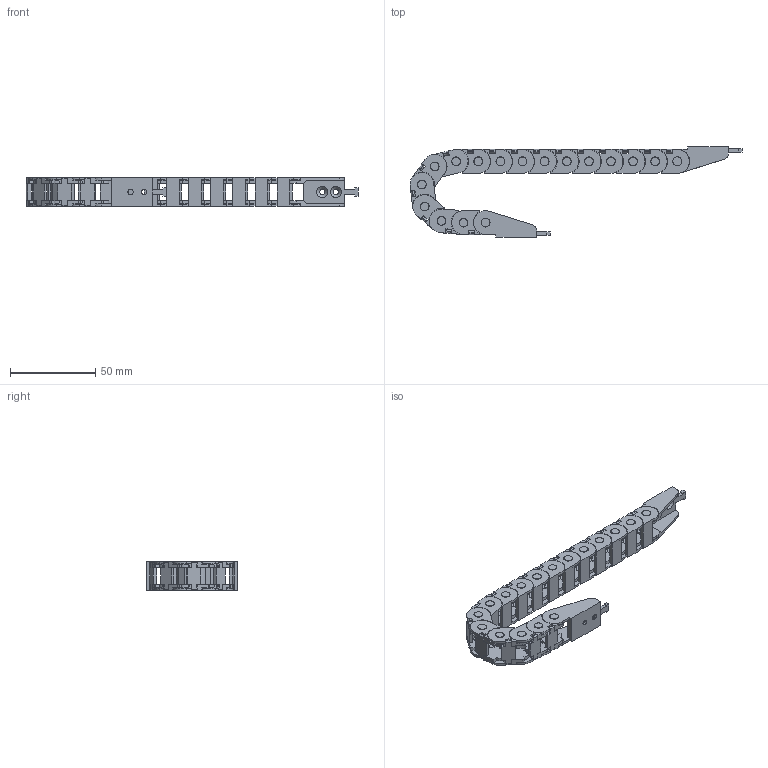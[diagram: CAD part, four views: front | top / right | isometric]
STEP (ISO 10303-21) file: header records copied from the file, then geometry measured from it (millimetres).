
FILE_DESCRIPTION(/* description */ (''),/* implementation_level */ '2;1');
FILE_NAME(/* name */ 'HSP 0130-1N 18R 16Link_203.stp',/* time_stamp */ '2017-07-24T15:29:30+09:00',/* author */ (''),/* organization */ (''),/* preprocessor_version */ 'ST-DEVELOPER v11',/* originating_system */ 'SIEMENS UGS NX 6.0',/* authorisation */ '');
FILE_SCHEMA (('CONFIG_CONTROL_DESIGN'));
Length unit declared in the file: millimetre
Products named in the file (1): HSP 0130-1N 18R 16Link
Bounding box: 195.12 x 53 x 17.4 mm (x, y, z)
Volume: 25052.9 mm3; surface area: 36517.7 mm2
Topology: 34 solids, 34 shells, 1406 faces, 3912 edges, 2608 vertices
Faces by surface type: plane 984, cylinder 418, cone 4
Full cylindrical faces by diameter (mm): 3.2 x4, 5 x32, 5.2 x36
Entity records: 44666 total; most frequent: CARTESIAN_POINT 7839, ORIENTED_EDGE 7660, DIRECTION 7516, EDGE_CURVE 3830, LINE 2958, VECTOR 2958, VERTEX_POINT 2602, AXIS2_PLACEMENT_3D 2279
